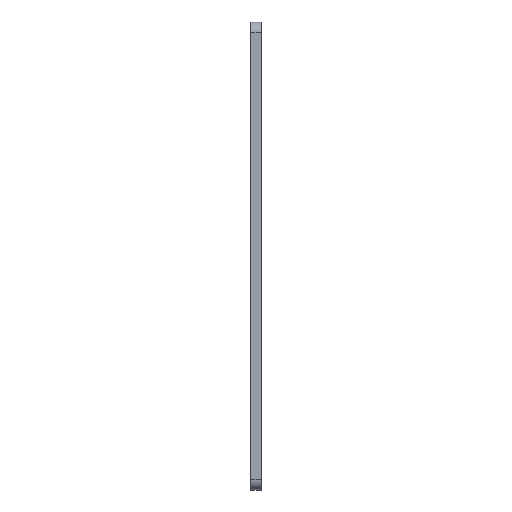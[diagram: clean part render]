
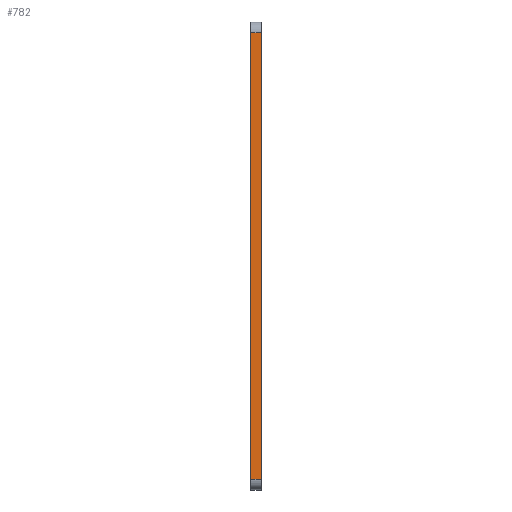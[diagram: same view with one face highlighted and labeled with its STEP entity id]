
A CAD part, left-side view. The second image highlights one B-rep face of the part: STEP entity #782.
In plain terms, the highlighted planar face has unit normal (-1, 0, 0).
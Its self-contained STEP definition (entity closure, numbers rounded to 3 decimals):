
#33 = LINE ( 'NONE', #358, #199 ) ;
#47 = VERTEX_POINT ( 'NONE', #908 ) ;
#82 = CARTESIAN_POINT ( 'NONE',  ( -43., 0., -20.5 ) ) ;
#114 = LINE ( 'NONE', #82, #286 ) ;
#125 = CARTESIAN_POINT ( 'NONE',  ( -43., 0., -20.5 ) ) ;
#134 = EDGE_CURVE ( 'NONE', #152, #367, #384, .T. ) ;
#140 = ORIENTED_EDGE ( 'NONE', *, *, #154, .T. ) ;
#152 = VERTEX_POINT ( 'NONE', #769 ) ;
#154 = EDGE_CURVE ( 'NONE', #47, #559, #530, .T. ) ;
#159 = VECTOR ( 'NONE', #915, 1000. ) ;
#177 = DIRECTION ( 'NONE',  ( 0., 0., 1. ) ) ;
#186 = FACE_OUTER_BOUND ( 'NONE', #397, .T. ) ;
#199 = VECTOR ( 'NONE', #873, 1000. ) ;
#273 = CARTESIAN_POINT ( 'NONE',  ( -43., 0., -17.5 ) ) ;
#275 = DIRECTION ( 'NONE',  ( 0., 0., 1. ) ) ;
#286 = VECTOR ( 'NONE', #177, 1000. ) ;
#334 = VECTOR ( 'NONE', #485, 1000. ) ;
#358 = CARTESIAN_POINT ( 'NONE',  ( -43., 3., -20.5 ) ) ;
#367 = VERTEX_POINT ( 'NONE', #871 ) ;
#383 = AXIS2_PLACEMENT_3D ( 'NONE', #125, #708, #275 ) ;
#384 = LINE ( 'NONE', #860, #159 ) ;
#397 = EDGE_LOOP ( 'NONE', ( #564, #810, #615, #140 ) ) ;
#417 = EDGE_CURVE ( 'NONE', #559, #152, #114, .T. ) ;
#485 = DIRECTION ( 'NONE',  ( 0., -1., 0. ) ) ;
#529 = EDGE_CURVE ( 'NONE', #47, #367, #33, .T. ) ;
#530 = LINE ( 'NONE', #273, #334 ) ;
#559 = VERTEX_POINT ( 'NONE', #581 ) ;
#564 = ORIENTED_EDGE ( 'NONE', *, *, #417, .T. ) ;
#581 = CARTESIAN_POINT ( 'NONE',  ( -43., 0., -17.5 ) ) ;
#615 = ORIENTED_EDGE ( 'NONE', *, *, #529, .F. ) ;
#642 = PLANE ( 'NONE',  #383 ) ;
#708 = DIRECTION ( 'NONE',  ( -1., 0., 0. ) ) ;
#769 = CARTESIAN_POINT ( 'NONE',  ( -43., 0., 107.5 ) ) ;
#782 = ADVANCED_FACE ( 'NONE', ( #186 ), #642, .T. ) ;
#810 = ORIENTED_EDGE ( 'NONE', *, *, #134, .T. ) ;
#860 = CARTESIAN_POINT ( 'NONE',  ( -43., 0., 107.5 ) ) ;
#871 = CARTESIAN_POINT ( 'NONE',  ( -43., 3., 107.5 ) ) ;
#873 = DIRECTION ( 'NONE',  ( 0., 0., 1. ) ) ;
#908 = CARTESIAN_POINT ( 'NONE',  ( -43., 3., -17.5 ) ) ;
#915 = DIRECTION ( 'NONE',  ( 0., 1., 0. ) ) ;
